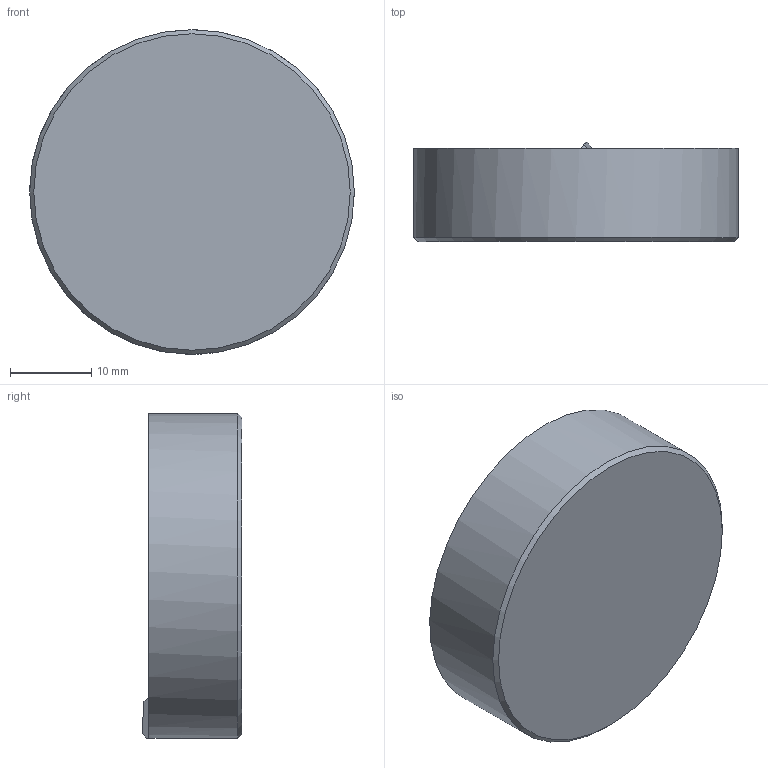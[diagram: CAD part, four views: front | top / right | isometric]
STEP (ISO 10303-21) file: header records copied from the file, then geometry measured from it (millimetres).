
FILE_DESCRIPTION( ( 'STEP AP203' ), '1' );
FILE_NAME( 'C:/Temp/Ganter_Step_05_03_2020/data/3_2/gn187_4/gn187_4_st/Serrated locking plate GN 187.4-40-48-E-ST.stp', '2020-03-13T05:25:50', ( 'License CC BY-ND 4.0' ), ( 'CADENAS' ), ' ', 'PARTsolutions', ' ' );
FILE_SCHEMA( ( 'CONFIG_CONTROL_DESIGN' ) );
Length unit declared in the file: millimetre
Products named in the file (1): _Serrated locking plate GN 187.4-40-48-E-ST
Bounding box: 40 x 12.32 x 40 mm (x, y, z)
Volume: 13370.1 mm3; surface area: 4075.2 mm2
Topology: 1 solids, 1 shells, 15 faces, 38 edges, 25 vertices
Faces by surface type: plane 7, cone 4, cylinder 4
Full cylindrical faces by diameter (mm): 30 x1, 40 x1
Entity records: 554 total; most frequent: CARTESIAN_POINT 174, DIRECTION 72, ORIENTED_EDGE 66, AXIS2_PLACEMENT_3D 33, EDGE_CURVE 33, VERTEX_POINT 23, EDGE_LOOP 18, FACE_OUTER_BOUND 17
